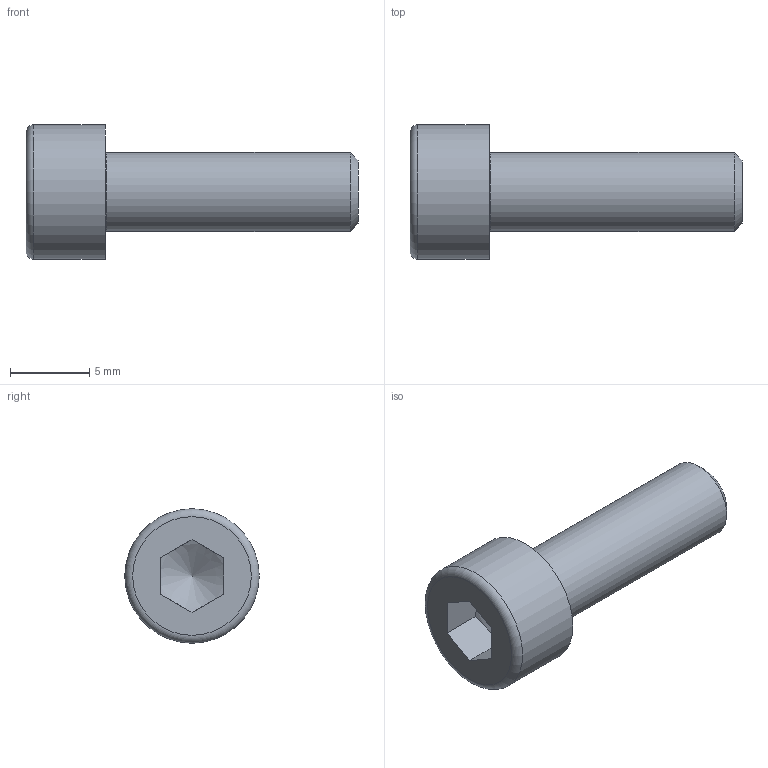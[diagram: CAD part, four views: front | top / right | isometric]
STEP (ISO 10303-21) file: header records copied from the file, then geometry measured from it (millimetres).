
FILE_DESCRIPTION(/* description */ ('6각머리 태핑 나사'),/* implementation_level */ '2;1');
FILE_NAME(/* name */ '',/* time_stamp */ '2026-09-29T15:29:59+09:00',/* author */ ('jhkim'),/* organization */ (''),/* preprocessor_version */ 'ST-DEVELOPER v20.1',/* originating_system */ 'Autodesk Inventor 2027',/* authorisation */ '');
FILE_SCHEMA (('AUTOMOTIVE_DESIGN { 1 0 10303 214 3 1 1 }'));
Length unit declared in the file: millimetre
Products named in the file (1): 6각 구멍붙이 볼트 
M5x16
Bounding box: 21 x 8.5 x 8.5 mm (x, y, z)
Volume: 552.9 mm3; surface area: 525.4 mm2
Topology: 1 solids, 1 shells, 15 faces, 36 edges, 24 vertices
Faces by surface type: plane 9, torus 2, cylinder 2, cone 2
Full cylindrical faces by diameter (mm): 5 x1, 8.5 x1
Entity records: 473 total; most frequent: CARTESIAN_POINT 89, DIRECTION 72, ORIENTED_EDGE 70, EDGE_CURVE 35, AXIS2_PLACEMENT_3D 28, VERTEX_POINT 24, EDGE_LOOP 17, LINE 16
